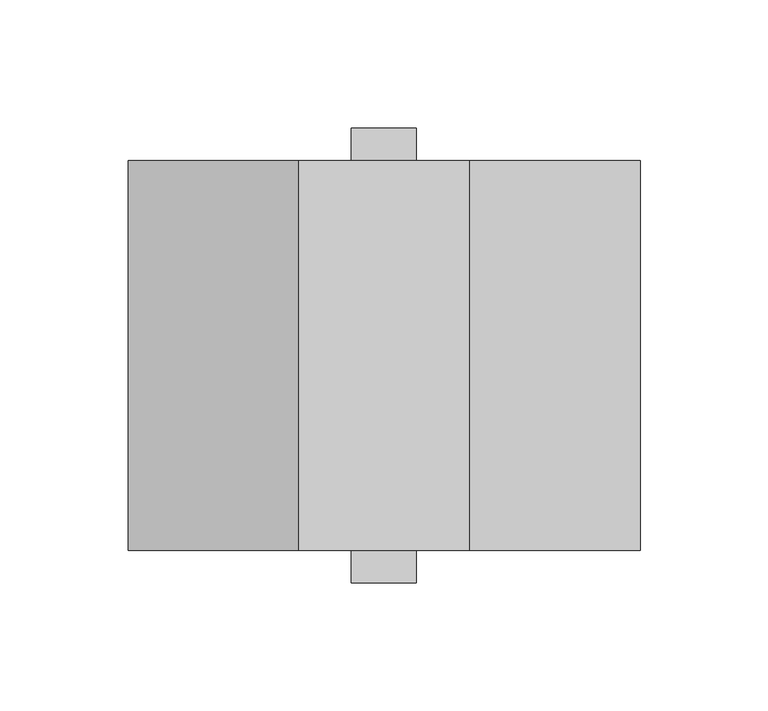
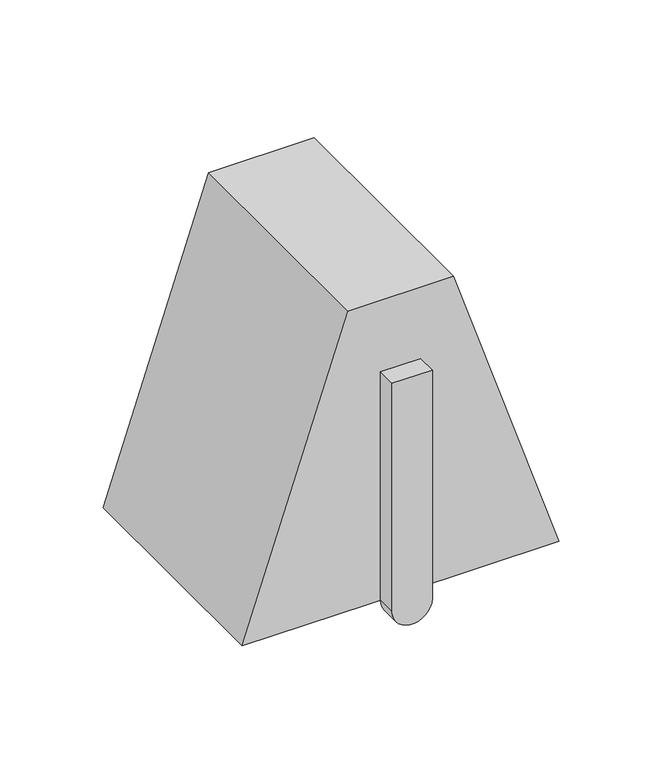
"""IFC4 building model written with IfcOpenShell, lengths in millimetres: light fixture geometry, M_嵌燈 - 聚光燈 : 傾斜 90 度."""

from ifc_helpers import new_model, si_unit, point, frame, frame_2d, origin, place, context, project, spatial, polyline, circle_curve, trimmed, segment, composite_curve, outline, extrude, source, transform, mapped, element, save


def light_fixture_135121fe(model_context):
    return source(origin(), model_context, "Body", "SweptSolid", [
        extrude(outline(composite_curve([segment(trimmed(circle_curve(frame_2d((2286.0, 0.0)), 12.7), [point((2286.0, -12.7))], [point((2286.0, 12.7))], False, "CARTESIAN"), True, "CONTINUOUS"), segment(polyline([(2286.0, 12.7), (2438.4, 12.7), (2438.4, -12.7), (2286.0, -12.7)]), True, "CONTINUOUS")], self_intersect=False)), frame((0.0, 76.2, 0.0), z_axis=(0.0, 1.0, 0.0), x_axis=(0.0, 0.0, 1.0)), (0.0, 0.0, 1.0), 12.7),
        extrude(outline(composite_curve([segment(trimmed(circle_curve(frame_2d((2286.0, 0.0)), 12.7), [point((2286.0, -12.7))], [point((2286.0, 12.7))], False, "CARTESIAN"), True, "CONTINUOUS"), segment(polyline([(2286.0, 12.7), (2438.4, 12.7), (2438.4, -12.7), (2286.0, -12.7)]), True, "CONTINUOUS")], self_intersect=False)), frame((0.0, -88.9, 0.0), z_axis=(0.0, 1.0, 0.0), x_axis=(0.0, 0.0, 1.0)), (0.0, 0.0, 1.0), 12.7),
        extrude(outline(polyline([(2486.0, 33.3469894), (2486.0, -33.3196774), (2286.0, -99.9863441), (2286.0, 0.0136559), (2286.0, 100.0136559), (2486.0, 33.3469894)])), frame((0.0, -76.2, 0.0), z_axis=(0.0, 1.0, 0.0), x_axis=(0.0, 0.0, 1.0)), (0.0, 0.0, 1.0), 152.4),
    ])


if __name__ == "__main__":
    model = new_model("IFC4")
    model_context = context("Model", 3, world=origin())
    ifc_project = project(units=[si_unit("LENGTHUNIT", "METRE", prefix="MILLI")], contexts=[model_context])
    site = spatial("IfcSite", under=ifc_project)
    building = spatial("IfcBuilding", under=site)
    placement = place(None, origin())
    light_fixture_shape = light_fixture_135121fe(model_context)
    element("IfcLightFixture", 1, ObjectType="M_嵌燈 - 聚光燈 : 傾斜 90 度", at=placement, inside=building, context=model_context, shape_type="MappedRepresentation", body=[
        mapped(light_fixture_shape, transform((0.0, 0.0, 0.0), x_axis=(1.0, 0.0, 0.0), y_axis=(0.0, 1.0, 0.0), z_axis=(0.0, 0.0, 1.0))),
    ])
    save(model, "model.ifc")
